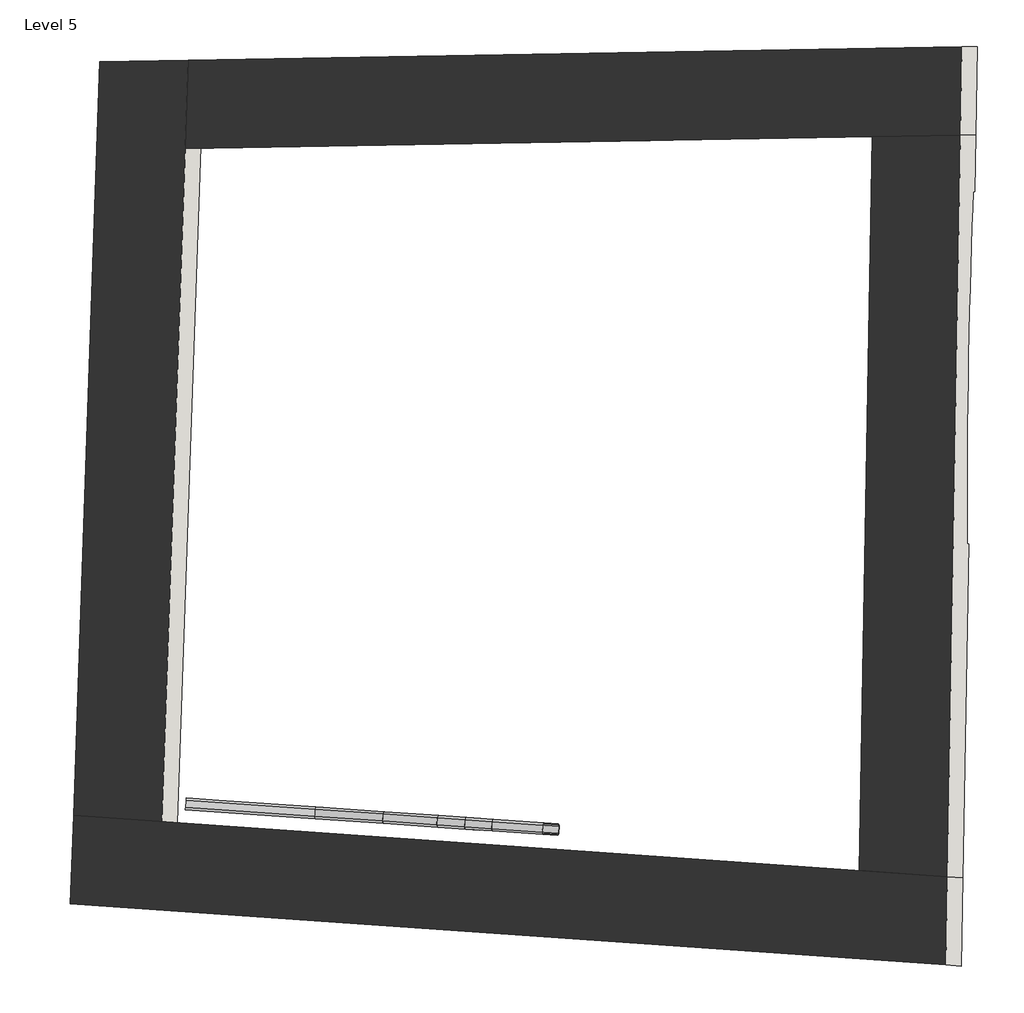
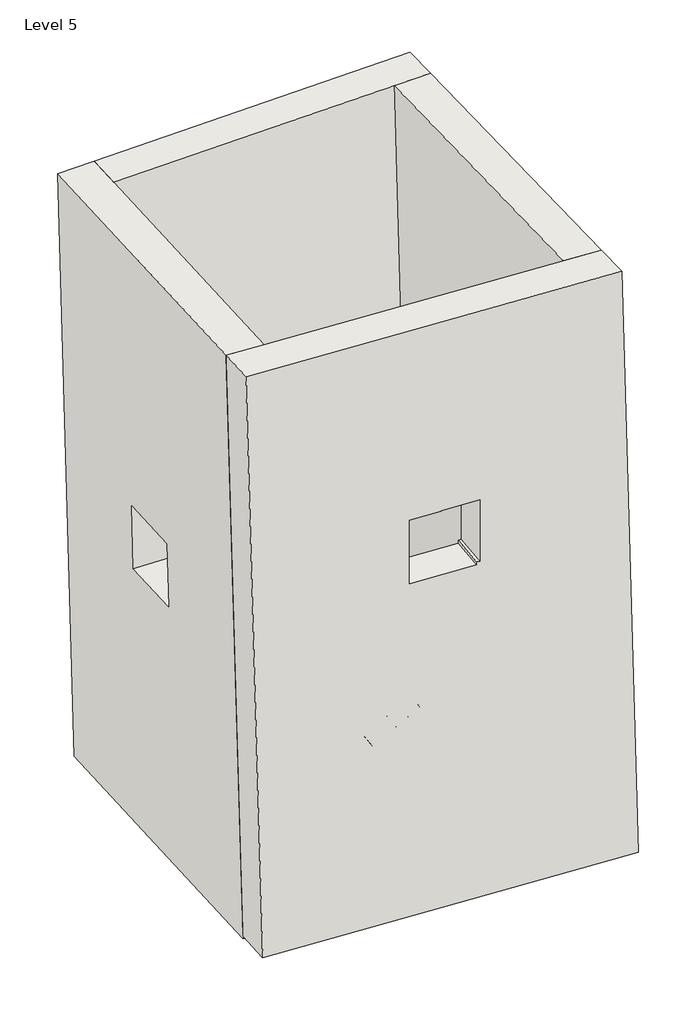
# One storey: 6 beams, 4 walls.
"""IFC4 building model written with IfcOpenShell, lengths in millimetres."""

from ifc_helpers import new_model, si_unit, point, frame, frame_2d, origin, place, context, project, spatial, polyline, circle_curve, ellipse_curve, trimmed, segment, composite_curve, outline, extrude, faceted_brep, transform, mapped, element, save
from ifc_brep_helpers import plane_surface, cylinder_surface, revolved_surface, extruded_surface, advanced_brep
from components import rectangular_and_square_hollow_sections_1d2b6f73, rectangular_and_square_hollow_sections_0260aec8, rectangular_and_square_hollow_sections_e0d2802d

model = new_model("IFC4")

# Units and contexts
model_context = context("Model", 3, world=origin())
ifc_project = project(units=[si_unit("LENGTHUNIT", "METRE", prefix="MILLI")], contexts=[model_context])

# Site, building, storey
site = spatial("IfcSite", under=ifc_project)
building = spatial("IfcBuilding", under=site)
storey = spatial("IfcBuildingStorey", under=building, Name="Level 5", Elevation=-3419.024662)

# Beams
placement = place(None, origin())
element("IfcBeam", 1, ObjectType="Rectangular and Square Hollow Sections : TREC160x60x6", at=placement, inside=storey, context=model_context, shape_type="AdvancedBrep", body=[
    advanced_brep(
    [(-746.6505809, -1167.6137735, -3354.314512), (-745.8135033, -1155.6430049, -3342.314512), (-743.3022702, -1119.7306991, -3342.314512), (-742.4651925, -1107.7599305, -3354.314512), (-742.4651925, -1107.7599305, -3490.314512), (-743.3022702, -1119.7306991, -3502.314512), (-745.8135033, -1155.6430049, -3502.314512), (-746.6505809, -1167.6137735, -3490.314512), (-743.3022702, -1119.7306991, -3348.314512), (-745.8135033, -1155.6430049, -3348.314512), (-746.2320421, -1161.6283892, -3354.314512), (-746.2320421, -1161.6283892, -3490.314512), (-745.8135033, -1155.6430049, -3496.314512), (-743.3022702, -1119.7306991, -3496.314512), (-742.8837314, -1113.7453148, -3490.314512), (-742.8837314, -1113.7453148, -3354.314512), (-85.3405322, -1213.857077, -3354.314512), (-87.9360171, -1201.6462803, -3342.314512), (-85.4247841, -1165.7339745, -3342.314512), (-81.1551437, -1154.003234, -3354.314512), (-42.252767, -1156.7235532, -3490.314512), (-39.657282, -1168.93435, -3502.314512), (-42.1685151, -1204.8466558, -3502.314512), (-46.4381554, -1216.5773962, -3490.314512), (-83.7085028, -1165.8539885, -3348.314512), (-86.2197358, -1201.7662943, -3348.314512), (-84.9219933, -1207.8716927, -3354.314512), (-46.0196166, -1210.5920119, -3490.314512), (-43.8847964, -1204.7266417, -3496.314512), (-41.3735634, -1168.8143359, -3496.314512), (-42.6713059, -1162.7089375, -3490.314512), (-81.5736826, -1159.9886183, -3354.314512)],
    [
        (0, 1, circle_curve(frame((-745.8135033, -1155.6430049, -3354.314512), z_axis=(-0.997564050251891, 0.0697564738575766, 0.0), x_axis=(0.0697564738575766, 0.997564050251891, 0.0)), 12.0)),
        (1, 2),
        (2, 3, circle_curve(frame((-743.3022702, -1119.7306991, -3354.314512), z_axis=(-0.997564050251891, 0.0697564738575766, 0.0), x_axis=(0.0697564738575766, 0.997564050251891, 0.0)), 12.0)),
        (3, 4),
        (4, 5, circle_curve(frame((-743.3022702, -1119.7306991, -3490.314512), z_axis=(-0.997564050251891, 0.0697564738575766, 0.0), x_axis=(0.0697564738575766, 0.997564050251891, 0.0)), 12.0)),
        (5, 6),
        (6, 7, circle_curve(frame((-745.8135033, -1155.6430049, -3490.314512), z_axis=(-0.997564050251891, 0.0697564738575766, 0.0), x_axis=(0.0697564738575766, 0.997564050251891, 0.0)), 12.0)),
        (7, 0),
        (8, 9),
        (9, 10, circle_curve(frame((-745.8135033, -1155.6430049, -3354.314512), z_axis=(0.997564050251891, -0.0697564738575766, 0.0), x_axis=(0.0697564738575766, 0.997564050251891, 0.0)), 6.0)),
        (10, 11),
        (11, 12, circle_curve(frame((-745.8135033, -1155.6430049, -3490.314512), z_axis=(0.997564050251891, -0.0697564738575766, 0.0), x_axis=(0.0697564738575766, 0.997564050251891, 0.0)), 6.0)),
        (12, 13),
        (13, 14, circle_curve(frame((-743.3022702, -1119.7306991, -3490.314512), z_axis=(0.997564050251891, -0.0697564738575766, 0.0), x_axis=(0.0697564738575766, 0.997564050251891, 0.0)), 6.0)),
        (14, 15),
        (15, 8, circle_curve(frame((-743.3022702, -1119.7306991, -3354.314512), z_axis=(0.997564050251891, -0.0697564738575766, 0.0), x_axis=(0.0697564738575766, 0.997564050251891, 0.0)), 6.0)),
        (0, 16),
        (16, 17, ellipse_curve(frame((-84.5034545, -1201.8863084, -3354.314512), z_axis=(-0.9589201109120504, 0.06705422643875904, -0.27563735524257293), x_axis=(-0.2749659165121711, 0.01922748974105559, 0.9612616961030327)), 12.4835932, 12.0)),
        (17, 1),
        (17, 18),
        (18, 2),
        (18, 19, ellipse_curve(frame((-81.9922214, -1165.9740026, -3354.314512), z_axis=(-0.9589201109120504, 0.06705422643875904, -0.27563735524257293), x_axis=(-0.2749659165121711, 0.01922748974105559, 0.9612616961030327)), 12.4835932, 12.0)),
        (19, 3),
        (19, 20),
        (20, 4),
        (20, 21, ellipse_curve(frame((-43.0898447, -1168.6943218, -3490.314512), z_axis=(-0.9589201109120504, 0.06705422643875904, -0.27563735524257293), x_axis=(-0.2749659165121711, 0.01922748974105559, 0.9612616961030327)), 12.4835932, 12.0)),
        (21, 5),
        (21, 22),
        (22, 6),
        (22, 23, ellipse_curve(frame((-45.6010778, -1204.6066276, -3490.314512), z_axis=(-0.9589201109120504, 0.06705422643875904, -0.27563735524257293), x_axis=(-0.2749659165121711, 0.01922748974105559, 0.9612616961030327)), 12.4835932, 12.0)),
        (23, 7),
        (23, 16),
        (8, 24),
        (24, 25),
        (25, 9),
        (25, 26, ellipse_curve(frame((-84.5034545, -1201.8863084, -3354.314512), z_axis=(0.9589201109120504, -0.06705422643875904, 0.27563735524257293), x_axis=(0.2749659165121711, -0.01922748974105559, -0.9612616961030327)), 6.2417966, 6.0)),
        (26, 10),
        (26, 27),
        (27, 11),
        (27, 28, ellipse_curve(frame((-45.6010778, -1204.6066276, -3490.314512), z_axis=(0.9589201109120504, -0.06705422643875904, 0.27563735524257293), x_axis=(0.2749659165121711, -0.01922748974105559, -0.9612616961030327)), 6.2417966, 6.0)),
        (28, 12),
        (28, 29),
        (29, 13),
        (29, 30, ellipse_curve(frame((-43.0898447, -1168.6943218, -3490.314512), z_axis=(0.9589201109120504, -0.06705422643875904, 0.27563735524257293), x_axis=(0.2749659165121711, -0.01922748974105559, -0.9612616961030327)), 6.2417966, 6.0)),
        (30, 14),
        (30, 31),
        (31, 15),
        (31, 24, ellipse_curve(frame((-81.9922214, -1165.9740026, -3354.314512), z_axis=(0.9589201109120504, -0.06705422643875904, 0.27563735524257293), x_axis=(0.2749659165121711, -0.01922748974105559, -0.9612616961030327)), 6.2417966, 6.0)),
    ],
    [
        plane_surface(frame((-744.5578867, -1137.686852, -3422.314512), z_axis=(-0.997564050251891, 0.0697564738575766, 0.0), x_axis=(0.0, 0.0, 1.0))),
        cylinder_surface(frame((-745.8135033, -1155.6430049, -3354.314512), z_axis=(-0.997564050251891, 0.0697564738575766, 0.0), x_axis=(0.0697564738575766, 0.997564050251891, 0.0)), 12.0),
        plane_surface(frame((-745.8135033, -1155.6430049, -3342.314512), z_axis=(0.0, 0.0, 1.0), x_axis=(0.997564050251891, -0.0697564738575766, 0.0))),
        cylinder_surface(frame((-743.3022702, -1119.7306991, -3354.314512), z_axis=(-0.997564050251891, 0.0697564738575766, 0.0), x_axis=(0.0697564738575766, 0.997564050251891, 0.0)), 12.0),
        plane_surface(frame((-742.4651925, -1107.7599305, -3354.314512), z_axis=(0.0697564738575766, 0.997564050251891, 0.0), x_axis=(0.997564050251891, -0.0697564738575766, 0.0))),
        cylinder_surface(frame((-743.3022702, -1119.7306991, -3490.314512), z_axis=(-0.997564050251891, 0.0697564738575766, 0.0), x_axis=(0.0697564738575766, 0.997564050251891, 0.0)), 12.0),
        plane_surface(frame((-743.3022702, -1119.7306991, -3502.314512), z_axis=(0.0, 0.0, -1.0), x_axis=(0.997564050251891, -0.0697564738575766, 0.0))),
        cylinder_surface(frame((-745.8135033, -1155.6430049, -3490.314512), z_axis=(-0.997564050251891, 0.0697564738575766, 0.0), x_axis=(0.0697564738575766, 0.997564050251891, 0.0)), 12.0),
        plane_surface(frame((-746.6505809, -1167.6137735, -3490.314512), z_axis=(-0.0697564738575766, -0.997564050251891, 0.0), x_axis=(0.997564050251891, -0.0697564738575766, 0.0))),
        plane_surface(frame((-743.3022702, -1119.7306991, -3348.314512), z_axis=(0.0, 0.0, -1.0), x_axis=(0.997564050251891, -0.0697564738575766, 0.0))),
        revolved_surface(polyline([(-82.3686343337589, -1196.0209381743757, -3354.314512), (-745.3949644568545, -1149.6576205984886, -3354.314512)]), (-745.8135033, -1155.6430049, -3354.314512), (0.997564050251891, -0.0697564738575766, 0.0)),
        plane_surface(frame((-746.2320421, -1161.6283892, -3354.314512), z_axis=(0.0697564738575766, 0.997564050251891, 0.0), x_axis=(0.997564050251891, -0.0697564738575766, 0.0))),
        revolved_surface(polyline([(-43.466257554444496, -1198.7412573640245, -3490.314512), (-745.3949644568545, -1149.6576205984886, -3490.314512)]), (-745.8135033, -1155.6430049, -3490.314512), (0.997564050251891, -0.0697564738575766, 0.0)),
        plane_surface(frame((-745.8135033, -1155.6430049, -3496.314512), z_axis=(0.0, 0.0, 1.0), x_axis=(0.997564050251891, -0.0697564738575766, 0.0))),
        revolved_surface(polyline([(-40.9550245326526, -1162.8289515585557, -3490.314512), (-742.8837313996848, -1113.7453147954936, -3490.314512)]), (-743.3022702, -1119.7306991, -3490.314512), (0.997564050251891, -0.0697564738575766, 0.0)),
        plane_surface(frame((-742.8837314, -1113.7453148, -3490.314512), z_axis=(-0.0697564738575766, -0.997564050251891, 0.0), x_axis=(0.997564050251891, -0.0697564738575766, 0.0))),
        revolved_surface(polyline([(-79.85740123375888, -1160.1086323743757, -3354.314512), (-742.8837313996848, -1113.7453147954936, -3354.314512)]), (-743.3022702, -1119.7306991, -3354.314512), (0.997564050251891, -0.0697564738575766, 0.0)),
        plane_surface(frame((-86.6804006, -1183.6901274, -3342.314512), z_axis=(0.9589201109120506, -0.06705422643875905, 0.275637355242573), x_axis=(0.2836762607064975, 0.22666558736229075, -0.9317459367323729))),
    ],
    [
        (0, [[1, 2, 3, 4, 5, 6, 7, 8], [9, 10, 11, 12, 13, 14, 15, 16]]),
        (1, [[-1, 17, 18, 19]]),
        (2, [[-2, -19, 20, 21]]),
        (3, [[-3, -21, 22, 23]]),
        (4, [[-4, -23, 24, 25]]),
        (5, [[-5, -25, 26, 27]]),
        (6, [[-6, -27, 28, 29]]),
        (7, [[-7, -29, 30, 31]]),
        (8, [[-8, -31, 32, -17]]),
        (9, [[-9, 33, 34, 35]]),
        (10, [[-10, -35, 36, 37]]),
        (11, [[-11, -37, 38, 39]]),
        (12, [[-12, -39, 40, 41]]),
        (13, [[-13, -41, 42, 43]]),
        (14, [[-14, -43, 44, 45]]),
        (15, [[-15, -45, 46, 47]]),
        (16, [[-16, -47, 48, -33]]),
        (17, [[-32, -30, -28, -26, -24, -22, -20, -18], [-48, -46, -44, -42, -40, -38, -36, -34]]),
    ],
),
])
element("IfcBeam", 2, ObjectType="Rectangular and Square Hollow Sections : TREC160x60x6", at=placement, inside=storey, context=model_context, shape_type="SweptSolid", body=[
    extrude(outline(composite_curve([segment(trimmed(circle_curve(frame_2d((67.9999999, 18.0)), 12.0), [point((67.9999999, 30.0))], [point((80.0, 18.0))], False, "CARTESIAN"), True, "CONTINUOUS"), segment(polyline([(80.0, 18.0), (80.0, -18.0)]), True, "CONTINUOUS"), segment(trimmed(circle_curve(frame_2d((67.9999999, -18.0)), 12.0), [point((80.0, -18.0))], [point((67.9999999, -30.0))], False, "CARTESIAN"), True, "CONTINUOUS"), segment(polyline([(67.9999999, -30.0), (-68.0000001, -30.0)]), True, "CONTINUOUS"), segment(trimmed(circle_curve(frame_2d((-68.0000001, -18.0)), 12.0), [point((-68.0000001, -30.0))], [point((-80.0, -18.0))], False, "CARTESIAN"), True, "CONTINUOUS"), segment(polyline([(-80.0, -18.0), (-80.0, 18.0)]), True, "CONTINUOUS"), segment(trimmed(circle_curve(frame_2d((-68.0000001, 18.0)), 12.0), [point((-80.0, 18.0))], [point((-68.0000001, 30.0))], False, "CARTESIAN"), True, "CONTINUOUS"), segment(polyline([(-68.0000001, 30.0), (67.9999999, 30.0)]), True, "CONTINUOUS")], self_intersect=False), holes=[composite_curve([segment(polyline([(74.0, -18.0), (74.0, 18.0)]), True, "CONTINUOUS"), segment(trimmed(circle_curve(frame_2d((67.9999999, 18.0)), 6.0), [point((74.0, 18.0))], [point((68.0, 24.0))], True, "CARTESIAN"), True, "CONTINUOUS"), segment(polyline([(68.0, 24.0), (-68.0000001, 24.0)]), True, "CONTINUOUS"), segment(trimmed(circle_curve(frame_2d((-68.0000001, 18.0)), 6.0), [point((-68.0000001, 24.0))], [point((-74.0, 18.0))], True, "CARTESIAN"), True, "CONTINUOUS"), segment(polyline([(-74.0, 18.0), (-74.0, -18.0)]), True, "CONTINUOUS"), segment(trimmed(circle_curve(frame_2d((-68.0000001, -18.0)), 6.0), [point((-74.0, -18.0))], [point((-68.0000001, -24.0))], True, "CARTESIAN"), True, "CONTINUOUS"), segment(polyline([(-68.0000001, -24.0), (68.0, -24.0)]), True, "CONTINUOUS"), segment(trimmed(circle_curve(frame_2d((67.9999999, -18.0)), 6.0), [point((68.0, -24.0))], [point((74.0, -18.0))], True, "CARTESIAN"), True, "CONTINUOUS")], self_intersect=False)]), frame((860.2147478, -1249.903486, -2843.5181903), z_axis=(0.8459822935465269, -0.0591568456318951, 0.5299192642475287), x_axis=(-0.5286284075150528, 0.03696529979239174, 0.8480480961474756)), (0.0, 0.0, 1.0), 303.2053336),
])
element("IfcBeam", 3, ObjectType="Rectangular and Square Hollow Sections : TREC160x60x6", at=placement, inside=storey, context=model_context, shape_type="AdvancedBrep", body=[
    advanced_brep(
    [(265.3754999, -1238.3815311, -3134.6276668), (337.2689632, -1243.4088118, -3249.962208), (344.4495817, -1231.8816268, -3260.1387851), (346.9608148, -1195.969321, -3260.1387851), (341.4543516, -1183.5549688, -3249.962208), (269.5608883, -1178.5276881, -3134.6276668), (262.3802698, -1190.0548731, -3124.4510896), (259.8690367, -1225.9671789, -3124.4510896), (265.5520402, -1190.2766649, -3129.5393782), (269.1423495, -1184.5130724, -3134.6276668), (341.0358128, -1189.5403531, -3249.962208), (343.7890444, -1195.7475292, -3255.0504965), (341.2778113, -1231.659835, -3255.0504965), (337.687502, -1237.4234275, -3249.962208), (265.7940387, -1232.3961468, -3134.6276668), (263.0408071, -1226.1889707, -3129.5393782), (-87.9360171, -1201.6462803, -3342.314512), (-85.3405322, -1213.857077, -3354.314512), (-85.4247841, -1165.7339745, -3342.314512), (-81.1551437, -1154.003234, -3354.314512), (-42.252767, -1156.7235532, -3490.314512), (-39.657282, -1168.93435, -3502.314512), (-42.1685151, -1204.8466558, -3502.314512), (-46.4381554, -1216.5773962, -3490.314512), (-86.2197358, -1201.7662943, -3348.314512), (-83.7085028, -1165.8539885, -3348.314512), (-84.9219933, -1207.8716927, -3354.314512), (-46.0196166, -1210.5920119, -3490.314512), (-43.8847964, -1204.7266417, -3496.314512), (-41.3735634, -1168.8143359, -3496.314512), (-42.6713058, -1162.7089375, -3490.314512), (-81.5736826, -1159.9886183, -3354.314512)],
    [
        (0, 1),
        (1, 2, circle_curve(frame((338.1060409, -1231.4380432, -3249.962208), z_axis=(0.8459822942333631, -0.05915684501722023, 0.5299192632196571), x_axis=(0.06975647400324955, 0.9975640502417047, 0.0)), 12.0)),
        (2, 3),
        (3, 4, circle_curve(frame((340.6172739, -1195.5257374, -3249.962208), z_axis=(0.8459822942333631, -0.05915684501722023, 0.5299192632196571), x_axis=(0.06975647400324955, 0.9975640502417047, 0.0)), 12.0)),
        (4, 5),
        (5, 6, circle_curve(frame((268.7238106, -1190.4984567, -3134.6276668), z_axis=(0.8459822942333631, -0.05915684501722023, 0.5299192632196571), x_axis=(0.06975647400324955, 0.9975640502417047, 0.0)), 12.0)),
        (6, 7),
        (7, 0, circle_curve(frame((266.2125776, -1226.4107625, -3134.6276668), z_axis=(0.8459822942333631, -0.05915684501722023, 0.5299192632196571), x_axis=(0.06975647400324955, 0.9975640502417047, 0.0)), 12.0)),
        (8, 9, circle_curve(frame((268.7238106, -1190.4984567, -3134.6276668), z_axis=(-0.8459822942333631, 0.05915684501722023, -0.5299192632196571), x_axis=(0.06975647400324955, 0.9975640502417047, 0.0)), 6.0)),
        (9, 10),
        (10, 11, circle_curve(frame((340.6172739, -1195.5257374, -3249.962208), z_axis=(-0.8459822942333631, 0.05915684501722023, -0.5299192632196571), x_axis=(0.06975647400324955, 0.9975640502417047, 0.0)), 6.0)),
        (11, 12),
        (12, 13, circle_curve(frame((338.1060409, -1231.4380432, -3249.962208), z_axis=(-0.8459822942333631, 0.05915684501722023, -0.5299192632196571), x_axis=(0.06975647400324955, 0.9975640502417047, 0.0)), 6.0)),
        (13, 14),
        (14, 15, circle_curve(frame((266.2125776, -1226.4107625, -3134.6276668), z_axis=(-0.8459822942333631, 0.05915684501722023, -0.5299192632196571), x_axis=(0.06975647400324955, 0.9975640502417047, 0.0)), 6.0)),
        (15, 8),
        (16, 17, ellipse_curve(frame((-84.5034545, -1201.8863084, -3354.314512), z_axis=(0.9589201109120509, -0.06705422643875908, 0.2756373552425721), x_axis=(0.2749659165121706, -0.01922748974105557, -0.961261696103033)), 12.4835932, 12.0)),
        (17, 0),
        (7, 16),
        (18, 16),
        (6, 18),
        (19, 18, ellipse_curve(frame((-81.9922214, -1165.9740026, -3354.314512), z_axis=(0.9589201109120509, -0.06705422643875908, 0.2756373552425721), x_axis=(0.2749659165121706, -0.01922748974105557, -0.961261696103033)), 12.4835932, 12.0)),
        (5, 19),
        (20, 19),
        (4, 20),
        (21, 20, ellipse_curve(frame((-43.0898447, -1168.6943218, -3490.314512), z_axis=(0.9589201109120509, -0.06705422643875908, 0.2756373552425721), x_axis=(0.2749659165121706, -0.01922748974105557, -0.961261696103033)), 12.4835932, 12.0)),
        (3, 21),
        (22, 21),
        (2, 22),
        (23, 22, ellipse_curve(frame((-45.6010778, -1204.6066276, -3490.314512), z_axis=(0.9589201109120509, -0.06705422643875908, 0.2756373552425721), x_axis=(0.2749659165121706, -0.01922748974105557, -0.961261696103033)), 12.4835932, 12.0)),
        (1, 23),
        (17, 23),
        (24, 25),
        (25, 8),
        (15, 24),
        (26, 24, ellipse_curve(frame((-84.5034545, -1201.8863084, -3354.314512), z_axis=(-0.9589201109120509, 0.06705422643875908, -0.2756373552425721), x_axis=(-0.2749659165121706, 0.01922748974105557, 0.961261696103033)), 6.2417966, 6.0)),
        (14, 26),
        (27, 26),
        (13, 27),
        (28, 27, ellipse_curve(frame((-45.6010778, -1204.6066276, -3490.314512), z_axis=(-0.9589201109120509, 0.06705422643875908, -0.2756373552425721), x_axis=(-0.2749659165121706, 0.01922748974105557, 0.961261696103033)), 6.2417966, 6.0)),
        (12, 28),
        (29, 28),
        (11, 29),
        (30, 29, ellipse_curve(frame((-43.0898447, -1168.6943218, -3490.314512), z_axis=(-0.9589201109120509, 0.06705422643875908, -0.2756373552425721), x_axis=(-0.2749659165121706, 0.01922748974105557, 0.961261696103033)), 6.2417966, 6.0)),
        (10, 30),
        (31, 30),
        (9, 31),
        (25, 31, ellipse_curve(frame((-81.9922214, -1165.9740026, -3354.314512), z_axis=(-0.9589201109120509, 0.06705422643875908, -0.2756373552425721), x_axis=(-0.2749659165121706, 0.01922748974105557, 0.961261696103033)), 6.2417966, 6.0)),
    ],
    [
        plane_surface(frame((303.4149258, -1210.96825, -3192.2949374), z_axis=(0.845982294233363, -0.05915684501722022, 0.5299192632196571), x_axis=(-0.5286284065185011, 0.036965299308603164, 0.848048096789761))),
        cylinder_surface(frame((-100.9437381, -1200.7366918, -3364.612627), z_axis=(-0.8459822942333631, 0.05915684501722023, -0.5299192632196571), x_axis=(0.06975647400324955, 0.9975640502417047, 0.0)), 12.0),
        plane_surface(frame((-107.287279, -1200.2931082, -3354.4360499), z_axis=(-0.5286284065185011, 0.03696529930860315, 0.848048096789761), x_axis=(0.8459822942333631, -0.05915684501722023, 0.5299192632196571))),
        cylinder_surface(frame((-98.432505, -1164.824386, -3364.612627), z_axis=(-0.8459822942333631, 0.05915684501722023, -0.5299192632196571), x_axis=(0.06975647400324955, 0.9975640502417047, 0.0)), 12.0),
        plane_surface(frame((-97.5954274, -1152.8536174, -3364.612627), z_axis=(0.06975647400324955, 0.9975640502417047, 0.0), x_axis=(0.8459822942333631, -0.05915684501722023, 0.5299192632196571))),
        cylinder_surface(frame((-26.5390418, -1169.8516667, -3479.9471682), z_axis=(-0.8459822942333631, 0.05915684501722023, -0.5299192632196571), x_axis=(0.06975647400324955, 0.9975640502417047, 0.0)), 12.0),
        plane_surface(frame((-20.1955009, -1170.2952503, -3490.1237454), z_axis=(0.5286284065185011, -0.03696529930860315, -0.848048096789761), x_axis=(0.8459822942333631, -0.05915684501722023, 0.5299192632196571))),
        cylinder_surface(frame((-29.0502748, -1205.7639725, -3479.9471682), z_axis=(-0.8459822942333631, 0.05915684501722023, -0.5299192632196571), x_axis=(0.06975647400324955, 0.9975640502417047, 0.0)), 12.0),
        plane_surface(frame((-29.8873525, -1217.7347411, -3479.9471682), z_axis=(-0.06975647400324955, -0.9975640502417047, 0.0), x_axis=(0.8459822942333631, -0.05915684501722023, 0.5299192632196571))),
        plane_surface(frame((-101.6042755, -1164.6025942, -3359.5243385), z_axis=(0.5286284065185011, -0.03696529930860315, -0.848048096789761), x_axis=(0.8459822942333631, -0.05915684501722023, 0.5299192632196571))),
        revolved_surface(polyline([(266.631116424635, -1220.425378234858, -3134.627666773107), (-85.54040477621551, -1195.7991464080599, -3355.2262234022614)]), (-100.9437381, -1200.7366918, -3364.612627), (0.8459822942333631, -0.05915684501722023, 0.5299192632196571)),
        plane_surface(frame((-101.362277, -1206.7220761, -3364.612627), z_axis=(0.06975647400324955, 0.9975640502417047, 0.0), x_axis=(0.8459822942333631, -0.05915684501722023, 0.5299192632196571))),
        revolved_surface(polyline([(338.52457973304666, -1225.4526589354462, -3249.962207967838), (-46.63802804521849, -1198.5194655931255, -3491.226223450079)]), (-29.0502748, -1205.7639725, -3479.9471682), (0.8459822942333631, -0.05915684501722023, 0.5299192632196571)),
        plane_surface(frame((-25.8785044, -1205.9857643, -3485.0354568), z_axis=(-0.5286284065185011, 0.03696529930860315, 0.848048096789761), x_axis=(0.8459822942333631, -0.05915684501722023, 0.5299192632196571))),
        revolved_surface(polyline([(341.0358128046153, -1189.5403531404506, -3249.9622079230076), (-44.126794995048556, -1162.6071597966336, -3491.226223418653)]), (-26.5390418, -1169.8516667, -3479.9471682), (0.8459822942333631, -0.05915684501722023, 0.5299192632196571)),
        plane_surface(frame((-26.1205029, -1163.8662824, -3479.9471682), z_axis=(-0.06975647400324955, -0.9975640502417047, 0.0), x_axis=(0.8459822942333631, -0.05915684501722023, 0.5299192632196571))),
        revolved_surface(polyline([(269.1423494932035, -1184.5130724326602, -3134.6276667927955), (-83.02917167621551, -1159.8868406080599, -3355.2262234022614)]), (-98.432505, -1164.824386, -3364.612627), (0.8459822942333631, -0.05915684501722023, 0.5299192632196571)),
        plane_surface(frame((-86.6804006, -1183.6901274, -3342.314512), z_axis=(-0.9589201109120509, 0.06705422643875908, -0.2756373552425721), x_axis=(0.28367626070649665, 0.22666558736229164, -0.931745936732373))),
    ],
    [
        (0, [[1, 2, 3, 4, 5, 6, 7, 8], [9, 10, 11, 12, 13, 14, 15, 16]]),
        (1, [[17, 18, -8, 19]]),
        (2, [[20, -19, -7, 21]]),
        (3, [[22, -21, -6, 23]]),
        (4, [[24, -23, -5, 25]]),
        (5, [[26, -25, -4, 27]]),
        (6, [[28, -27, -3, 29]]),
        (7, [[30, -29, -2, 31]]),
        (8, [[32, -31, -1, -18]]),
        (9, [[33, 34, -16, 35]]),
        (10, [[36, -35, -15, 37]]),
        (11, [[38, -37, -14, 39]]),
        (12, [[40, -39, -13, 41]]),
        (13, [[42, -41, -12, 43]]),
        (14, [[44, -43, -11, 45]]),
        (15, [[46, -45, -10, 47]]),
        (16, [[48, -47, -9, -34]]),
        (17, [[-17, -20, -22, -24, -26, -28, -30, -32], [-33, -36, -38, -40, -42, -44, -46, -48]]),
    ],
),
])
rectangular_and_square_hollow_sections_shape = rectangular_and_square_hollow_sections_1d2b6f73(model_context)
element("IfcBeam", 4, ObjectType="Rectangular and Square Hollow Sections : TREC160x60x6", at=placement, inside=storey, context=model_context, shape_type="MappedRepresentation", body=[
    mapped(rectangular_and_square_hollow_sections_shape, transform((441.4409189, -1220.6199676, -3105.836115), x_axis=(-0.8459822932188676, 0.05915684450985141, -0.5299192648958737), y_axis=(-0.06975647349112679, -0.9975640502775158, 0.0), z_axis=(-0.5286284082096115, 0.03696529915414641, 0.8480480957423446))),
])
rectangular_and_square_hollow_sections_2_shape = rectangular_and_square_hollow_sections_0260aec8(model_context)
element("IfcBeam", 5, ObjectType="Rectangular and Square Hollow Sections : TREC160x60x6", at=placement, inside=storey, context=model_context, shape_type="MappedRepresentation", body=[
    mapped(rectangular_and_square_hollow_sections_2_shape, transform((645.2485079, -1234.8715826, -2978.1720155), x_axis=(-0.8459822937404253, 0.05915684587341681, -0.52991926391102), y_axis=(-0.06975647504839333, -0.9975640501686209, 0.0), z_axis=(-0.5286284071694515, 0.03696529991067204, 0.8480480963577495))),
])
rectangular_and_square_hollow_sections_3_shape = rectangular_and_square_hollow_sections_e0d2802d(model_context)
element("IfcBeam", 6, ObjectType="Rectangular and Square Hollow Sections : TREC160x60x6", at=placement, inside=storey, context=model_context, shape_type="MappedRepresentation", body=[
    mapped(rectangular_and_square_hollow_sections_3_shape, transform((780.0643164, -1244.2988221, -2893.7240375), x_axis=(-0.8459822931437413, 0.05915684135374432, -0.5299192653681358), y_axis=(-0.06975646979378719, -0.9975640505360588, 0.0), z_axis=(-0.5286284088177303, 0.03696529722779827, 0.8480480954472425))),
])

# Walls
element("IfcWall", 7, ObjectType="masnary 50cm wall", at=placement, inside=storey, context=model_context, shape_type="Brep", body=[
    faceted_brep([(-1439.5274214, -1189.7789632, 2449.7050604), (-990.1959974, -1221.1992772, 2449.7050604), (3019.188149, -1501.5627289, 2449.7050604), (3019.2120342, -1501.5643991, 2448.7919477), (3219.3783276, -1515.5613899, -5203.4149), (-1239.4897389, -1203.7669606, -5203.4149), (1354.7860966, -1385.1763994, -16.898073), (898.8702396, -1353.2956569, -16.898073), (898.8702396, -1353.2956569, -26.380124), (520.2510547, -1326.8200243, -26.380124), (520.2510547, -1326.8200243, -856.380124), (1318.3022949, -1382.6252034, -856.380124), (1318.3022949, -1382.6252034, -816.1410612), (1354.7860966, -1385.1763994, -816.1410612), (3011.3237883, -1952.1116533, 2449.7050604), (-1455.2417677, -1639.7789632, 2449.7050604), (-1255.2040852, -1653.7669606, -5203.4149), (3211.5139669, -1966.1103143, -5203.4149), (867.4798263, -1802.1994795, -16.898073), (1323.3956833, -1834.080222, -16.898073), (1323.3956833, -1834.080222, -816.1410612), (1286.9118817, -1831.529026, -816.1410612), (1286.9118817, -1831.529026, -856.380124), (488.8606415, -1775.7238469, -856.380124), (488.8606415, -1775.7238469, -26.380124), (867.4798263, -1802.1994795, -26.380124)], [[[0, 1, 2, 3, 4, 5], [6, 7, 8, 9, 10, 11, 12, 13]], [[14, 15, 16, 17], [18, 19, 20, 21, 22, 23, 24, 25]], [[2, 1, 0, 15, 14]], [[15, 0, 5, 16]], [[2, 14, 17, 4, 3]], [[5, 4, 17, 16]], [[6, 19, 18, 7]], [[20, 13, 12, 21]], [[19, 6, 13, 20]], [[7, 18, 25, 8]], [[23, 10, 9, 24]], [[24, 9, 8, 25]], [[12, 11, 22, 21]], [[10, 23, 22, 11]]]),
])
element("IfcWall", 8, ObjectType="masnary 50cm wall", at=placement, inside=storey, context=model_context, shape_type="Brep", body=[
    faceted_brep([(-789.3926876, -1235.2408125, -5232.7065662), (-653.4220301, 2658.4493754, -5232.7065662), (-854.8384533, 2654.9336387, 2449.7050604), (-870.5647792, 2204.590587, 2449.7050604), (-990.1959974, -1221.1992772, 2449.7050604), (-818.504983, 1118.0563216, -985.2545067), (-796.783908, 1117.297805, -1815.2545067), (-824.7035054, 317.7851433, -1815.2545067), (-846.4245803, 318.54366, -985.2545067), (-1104.1253993, 2650.5823188, -5232.7065662), (-1238.7241117, -1203.8204985, -5232.7065662), (-1239.4897389, -1203.7669606, -5203.4149), (-1439.5274214, -1189.7789632, 2449.7050604), (-1305.5418225, 2647.0665821, 2449.7050604), (-1246.6639428, 1133.0079619, -1815.2545067), (-1268.3850178, 1133.7664786, -985.2545067), (-1296.3046151, 334.253817, -985.2545067), (-1274.5835402, 333.4953003, -1815.2545067)], [[[0, 1, 2, 3, 4], [5, 6, 7, 8]], [[9, 10, 11, 12, 13], [14, 15, 16, 17]], [[1, 0, 10, 9]], [[4, 3, 2, 13, 12]], [[0, 4, 12, 11, 10]], [[2, 1, 9, 13]], [[14, 6, 5, 15]], [[15, 5, 8, 16]], [[16, 8, 7, 17]], [[6, 14, 17, 7]]]),
])
element("IfcWall", 9, ObjectType="masnary 50cm wall", at=placement, inside=storey, context=model_context, shape_type="AdvancedBrep", body=[
    advanced_brep(
    [(-669.0852185, 2208.1074258, -5235.1147514), (3286.4105825, 2277.1508619, -5235.1147514), (3285.92069, 2277.1423108, -5216.4150587), (3085.1084218, 2273.6371196, 2448.7919477), (3085.0845002, 2273.636702, 2449.7050604), (-870.5647792, 2204.590587, 2449.7050604), (244.2249755, 2224.0493146, -5016.5604927), (244.2249755, 2224.0493146, -2917.565128), (1645.3038731, 2248.5052377, -2917.565128), (1645.3038731, 2248.5052377, -5016.5604927), (1624.9552857, 2248.1500518, -5016.5604927), (1624.9552857, 2248.1500518, -5111.9909645), (253.3375934, 2224.2083759, -5111.9909645), (253.3375934, 2224.2083759, -5016.5604927), (3294.2689525, 2727.3565778, -5235.1147514), (-653.3588926, 2658.4504775, -5235.1147514), (-653.4220301, 2658.4493754, -5232.7065662), (-854.8384533, 2654.9336387, 2449.7050604), (3092.9428702, 2723.842418, 2449.7050604), (236.3713926, 2673.9807774, -2917.565128), (236.3713926, 2673.9807774, -5016.5604927), (245.4840105, 2674.1398387, -5016.5604927), (245.4840105, 2674.1398387, -5111.9909645), (1617.1017028, 2698.0815146, -5111.9909645), (1617.1017028, 2698.0815146, -5016.5604927), (1637.4502902, 2698.4367005, -5016.5604927), (1637.4502902, 2698.4367005, -2917.565128)],
    [
        (0, 1),
        (1, 2),
        (2, 3),
        (3, 4),
        (4, 5),
        (5, 0),
        (6, 7),
        (7, 8, circle_curve(frame((944.7644243, 2236.2772761, -3088.0834232), z_axis=(-0.017452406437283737, 0.9998476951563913, 0.0), x_axis=(-0.9998476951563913, -0.017452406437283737, 0.0)), 721.0974493)),
        (8, 9),
        (9, 10),
        (10, 11),
        (11, 12),
        (12, 13),
        (13, 6),
        (14, 15),
        (15, 16),
        (16, 17),
        (17, 18),
        (18, 14),
        (19, 20),
        (20, 21),
        (21, 22),
        (22, 23),
        (23, 24),
        (24, 25),
        (25, 26),
        (26, 19, circle_curve(frame((936.9108414, 2686.2087389, -3088.0834232), z_axis=(0.017452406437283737, -0.9998476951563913, 0.0), x_axis=(-0.9998476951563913, -0.017452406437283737, 0.0)), 721.0974493)),
        (5, 17),
        (15, 0),
        (1, 14),
        (18, 4),
        (20, 6),
        (13, 21),
        (9, 25),
        (24, 10),
        (19, 7),
        (26, 8),
        (12, 22),
        (23, 11),
    ],
    [
        plane_surface(frame((-927.5659495, 2203.5956279, -5235.1147514), z_axis=(0.01745240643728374, -0.9998476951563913, 0.0), x_axis=(0.9998476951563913, 0.01745240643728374, 0.0))),
        plane_surface(frame((-935.4195324, 2653.5270907, -5235.1147514), z_axis=(-0.01745240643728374, 0.9998476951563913, 0.0), x_axis=(-0.9998476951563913, -0.01745240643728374, 0.0))),
        plane_surface(frame((-796.9176749, -1450.7282545, -5232.7065662), z_axis=(-0.9990483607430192, 0.034887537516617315, -0.026176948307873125), x_axis=(0.03489949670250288, 0.9993908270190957, 0.0))),
        plane_surface(frame((3289.6840168, 2492.7431574, -5216.4150587), z_axis=(0.9995050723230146, -0.017446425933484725, 0.0261769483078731), x_axis=(0.026172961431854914, -0.00045685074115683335, -0.9996573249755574))),
        plane_surface(frame((-930.2609517, 2203.5485864, -5235.1147514), z_axis=(0.0, 0.0, -1.0), x_axis=(-0.017452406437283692, 0.9998476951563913, 0.0))),
        plane_surface(frame((3021.5088047, 2272.5269841, 2449.7050604), z_axis=(0.0, 0.0, 1.0), x_axis=(-0.017452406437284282, 0.9998476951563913, 0.0))),
        plane_surface(frame((1645.3038731, 2248.5052377, -5016.5604927), z_axis=(0.0, 0.0, 1.0000000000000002), x_axis=(-0.017452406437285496, 0.9998476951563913, 0.0))),
        plane_surface(frame((244.2249755, 2224.0493146, -5016.5604927), z_axis=(0.9998476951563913, 0.017452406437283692, 0.0), x_axis=(-0.017452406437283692, 0.9998476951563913, 0.0))),
        revolved_surface(polyline([(215.9232186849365, 2673.623853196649, -3088.0834232), (223.77680158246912, 2223.6923903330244, -3088.0834232)]), (940.8376328, 2461.2430075, -3088.0834232), (-0.017452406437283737, 0.9998476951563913, 0.0)),
        plane_surface(frame((1645.3038731, 2248.5052377, -2917.565128), z_axis=(-0.9998476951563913, -0.017452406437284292, 0.0), x_axis=(-0.017452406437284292, 0.9998476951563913, 0.0))),
        plane_surface(frame((226.7401259, 3747.9762633, -5111.9909645), z_axis=(0.9998476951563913, 0.01745240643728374, 0.0), x_axis=(0.01745240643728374, -0.9998476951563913, 0.0))),
        plane_surface(frame((1598.3578183, 3771.9179392, -3326.070331), z_axis=(-0.9998476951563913, -0.01745240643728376, 0.0), x_axis=(0.01745240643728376, -0.9998476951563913, 0.0))),
        plane_surface(frame((1598.3578183, 3771.9179392, -5111.9909645), z_axis=(0.0, 0.0, 1.0), x_axis=(0.01745240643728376, -0.9998476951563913, 0.0))),
    ],
    [
        (0, [[1, 2, 3, 4, 5, 6], [7, 8, 9, 10, 11, 12, 13, 14]]),
        (1, [[15, 16, 17, 18, 19], [20, 21, 22, 23, 24, 25, 26, 27]]),
        (2, [[-6, 28, -17, -16, 29]]),
        (3, [[-4, -3, -2, 30, -19, 31]]),
        (4, [[-1, -29, -15, -30]]),
        (5, [[-5, -31, -18, -28]]),
        (6, [[32, -14, 33, -21]]),
        (6, [[34, -25, 35, -10]]),
        (7, [[-7, -32, -20, 36]]),
        (8, [[-8, -36, -27, 37]]),
        (9, [[-9, -37, -26, -34]]),
        (10, [[38, -22, -33, -13]]),
        (11, [[39, -11, -35, -24]]),
        (12, [[-38, -12, -39, -23]]),
    ],
),
])
element("IfcWall", 10, ObjectType="masnary 50cm wall", at=placement, inside=storey, context=model_context, shape_type="AdvancedBrep", body=[
    advanced_brep(
    [(2569.5380682, -1470.1201322, 2448.7919477), (2634.7483787, 2265.7760558, 2448.7919477), (2835.5606469, 2269.281247, -5216.4150587), (2830.7551128, 1993.9723827, -5216.4150587), (2823.4315556, 1994.1002158, -4936.6970902), (2792.306421, 195.7913337, -4946.7950158), (2799.365595, 195.6681153, -5216.4150587), (2770.0444196, -1484.1409021, -5216.4150587), (2632.4832812, -410.6660739, 751.4828331), (2675.6834712, -411.4201361, -898.5171669), (2692.4377814, 548.4336513, -898.5171669), (2649.2375914, 549.1877134, 751.4828331), (3085.1084218, 2273.6371196, 2448.7919477), (3019.2120342, -1501.5643991, 2448.7919477), (3219.3783276, -1515.5613899, -5203.4149), (3219.7183856, -1515.585169, -5216.4150587), (3249.451291, 187.8118403, -5216.4150587), (3242.392117, 187.9350586, -4946.7950158), (3273.5172515, 1986.2439408, -4936.6970902), (3280.8408087, 1986.1161076, -5216.4150587), (3285.92069, 2277.1423108, -5216.4150587), (3125.7691671, -419.2764111, -898.5171669), (3082.5689771, -418.522349, 751.4828331), (3099.3232873, 541.3314384, 751.4828331), (3142.5234773, 540.5773763, -898.5171669)],
    [
        (0, 1),
        (1, 2),
        (2, 3),
        (3, 4),
        (4, 5, ellipse_curve(frame((2829.3558159, 1099.159845, -5759.361326), z_axis=(0.9995050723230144, -0.01744642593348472, 0.026176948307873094), x_axis=(-0.026180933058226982, 0.0, 0.9996572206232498)), 1216.0206101, 1215.2803508)),
        (5, 6),
        (6, 7),
        (7, 0),
        (8, 9),
        (9, 10),
        (10, 11),
        (11, 8),
        (12, 13),
        (13, 14),
        (14, 15),
        (15, 16),
        (16, 17),
        (17, 18, ellipse_curve(frame((3279.4415119, 1091.30357, -5759.361326), z_axis=(-0.9995050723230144, 0.01744642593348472, -0.026176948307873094), x_axis=(-0.026180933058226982, 0.0, 0.9996572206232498)), 1216.0206101, 1215.2803508)),
        (18, 19),
        (19, 20),
        (20, 12),
        (21, 22),
        (22, 23),
        (23, 24),
        (24, 21),
        (7, 15),
        (13, 0),
        (1, 12),
        (20, 2),
        (19, 3),
        (18, 4),
        (17, 5),
        (16, 6),
        (21, 9),
        (8, 22),
        (11, 23),
        (10, 24),
    ],
    [
        plane_surface(frame((2839.5983208, 2500.5994324, -5216.4150587), z_axis=(-0.9995050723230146, 0.017446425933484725, -0.0261769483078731), x_axis=(-0.026172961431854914, 0.00045685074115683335, 0.9996573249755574))),
        plane_surface(frame((3289.6840168, 2492.7431574, -5216.4150587), z_axis=(0.9995050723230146, -0.017446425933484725, 0.0261769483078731), x_axis=(0.026172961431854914, -0.00045685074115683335, -0.9996573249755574))),
        plane_surface(frame((3036.9086552, -1502.8018674, -5264.0710106), z_axis=(-0.06975647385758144, -0.9975640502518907, 0.0), x_axis=(-0.9975640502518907, 0.06975647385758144, 0.0))),
        plane_surface(frame((-927.5659495, 2203.5956279, -5235.1147514), z_axis=(-0.01745240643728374, 0.9998476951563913, 0.0), x_axis=(0.9998476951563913, 0.01745240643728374, 0.0))),
        plane_surface(frame((2565.2594843, -1715.2400385, 2448.7919477), z_axis=(0.0, 0.0, 1.0), x_axis=(0.9998476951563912, -0.017452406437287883, 0.0))),
        plane_surface(frame((2839.5983208, 2500.5994324, -5216.4150587), z_axis=(0.0, 0.0, -1.0), x_axis=(0.9998476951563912, -0.017452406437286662, 0.0))),
        plane_surface(frame((2830.7551128, 1993.9723827, -5216.4150587), z_axis=(-0.017452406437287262, -0.9998476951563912, 0.0), x_axis=(0.9998476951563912, -0.017452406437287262, 0.0))),
        extruded_surface(trimmed(ellipse_curve(frame((3729.5272078, 1083.447295, -5759.361326), z_axis=(0.9995050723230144, -0.01744642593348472, 0.026176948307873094), x_axis=(-0.026180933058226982, 0.0, 0.9996572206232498)), 1216.0206101, 1215.2803508), [point((3723.6029475, 1978.3876658, -4936.6970902))], [point((3692.4778129, 180.0787836, -4946.7950158))], True, "CARTESIAN"), (-450.0856958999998, 7.856275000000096, 0.0), 450.1542565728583),
        plane_surface(frame((2792.306421, 195.7913337, -4946.7950158), z_axis=(0.017452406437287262, 0.9998476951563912, 0.0), x_axis=(0.9998476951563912, -0.017452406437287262, 0.0))),
        plane_surface(frame((2799.365595, 195.6681153, -5216.4150587), z_axis=(0.0, 0.0, -1.0), x_axis=(0.9998476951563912, -0.017452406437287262, 0.0))),
        plane_surface(frame((1600.3555993, -392.6502182, -898.5171669), z_axis=(0.017452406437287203, 0.9998476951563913, 0.0), x_axis=(0.9998476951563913, -0.017452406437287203, 0.0))),
        plane_surface(frame((1600.3555993, -392.6502182, 751.4828331), z_axis=(0.0, 0.0, -1.0000000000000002), x_axis=(0.9998476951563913, -0.017452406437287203, 0.0))),
        plane_surface(frame((1617.1099095, 567.2035691, 751.4828331), z_axis=(-0.017452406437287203, -0.9998476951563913, 0.0), x_axis=(0.9998476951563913, -0.017452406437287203, 0.0))),
        plane_surface(frame((1617.1099095, 567.2035691, -898.5171669), z_axis=(0.0, 0.0, 1.0000000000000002), x_axis=(0.9998476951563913, -0.017452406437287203, 0.0))),
    ],
    [
        (0, [[1, 2, 3, 4, 5, 6, 7, 8], [9, 10, 11, 12]]),
        (1, [[13, 14, 15, 16, 17, 18, 19, 20, 21], [22, 23, 24, 25]]),
        (2, [[-8, 26, -15, -14, 27]]),
        (3, [[-2, 28, -21, 29]]),
        (4, [[-1, -27, -13, -28]]),
        (5, [[-3, -29, -20, 30]]),
        (6, [[-4, -30, -19, 31]]),
        (7, [[-5, -31, -18, 32]]),
        (8, [[-6, -32, -17, 33]]),
        (9, [[-7, -33, -16, -26]]),
        (10, [[34, -9, 35, -22]]),
        (11, [[-35, -12, 36, -23]]),
        (12, [[-36, -11, 37, -24]]),
        (13, [[-34, -25, -37, -10]]),
    ],
),
])

save(model, "model.ifc")
